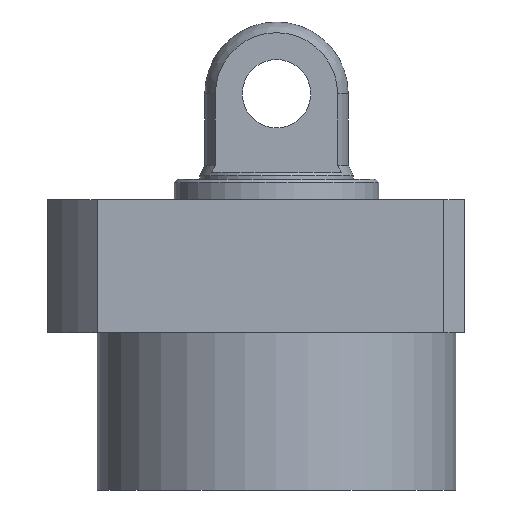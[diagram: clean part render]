
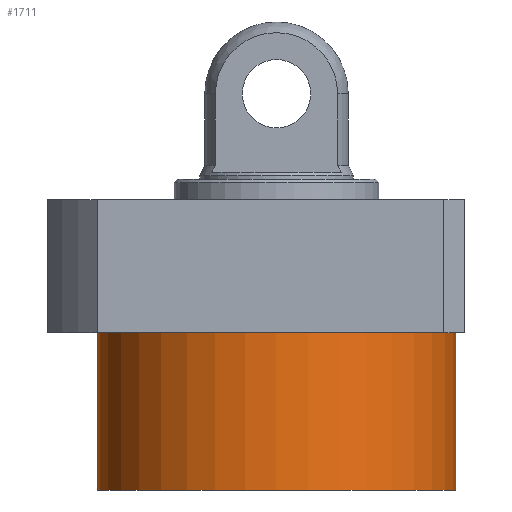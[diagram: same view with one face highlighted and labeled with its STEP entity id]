
A CAD part, front view. The second image highlights one B-rep face of the part: STEP entity #1711.
In plain terms, the highlighted cylindrical face has radius 52.5 mm (diameter 105 mm), a partial arc.
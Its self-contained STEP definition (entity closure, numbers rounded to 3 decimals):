
#115 = ORIENTED_EDGE ( 'NONE', *, *, #1165, .F. ) ;
#121 = FACE_OUTER_BOUND ( 'NONE', #1429, .T. ) ;
#256 = CARTESIAN_POINT ( 'NONE',  ( 52.5, 0., -19.5 ) ) ;
#286 = LINE ( 'NONE', #531, #523 ) ;
#312 = CYLINDRICAL_SURFACE ( 'NONE', #1428, 52.5 ) ;
#330 = CARTESIAN_POINT ( 'NONE',  ( 0., 0., -65.5 ) ) ;
#370 = CIRCLE ( 'NONE', #1454, 52.5 ) ;
#472 = DIRECTION ( 'NONE',  ( 1., 0., 0. ) ) ;
#523 = VECTOR ( 'NONE', #1557, 1000. ) ;
#531 = CARTESIAN_POINT ( 'NONE',  ( 52.5, 0., -65.5 ) ) ;
#540 = VECTOR ( 'NONE', #1033, 1000. ) ;
#605 = DIRECTION ( 'NONE',  ( 0., 0., 1. ) ) ;
#711 = CIRCLE ( 'NONE', #1250, 52.5 ) ;
#772 = CARTESIAN_POINT ( 'NONE',  ( -52.5, 0., -65.5 ) ) ;
#901 = LINE ( 'NONE', #772, #540 ) ;
#902 = VERTEX_POINT ( 'NONE', #1622 ) ;
#952 = EDGE_CURVE ( 'NONE', #1632, #1456, #286, .T. ) ;
#977 = DIRECTION ( 'NONE',  ( -1., 0., 0. ) ) ;
#1033 = DIRECTION ( 'NONE',  ( 0., 0., 1. ) ) ;
#1044 = ORIENTED_EDGE ( 'NONE', *, *, #952, .T. ) ;
#1116 = ORIENTED_EDGE ( 'NONE', *, *, #1273, .T. ) ;
#1165 = EDGE_CURVE ( 'NONE', #1677, #902, #901, .T. ) ;
#1187 = DIRECTION ( 'NONE',  ( 0., 0., -1. ) ) ;
#1250 = AXIS2_PLACEMENT_3D ( 'NONE', #1653, #1259, #977 ) ;
#1259 = DIRECTION ( 'NONE',  ( 0., 0., -1. ) ) ;
#1273 = EDGE_CURVE ( 'NONE', #1456, #902, #370, .T. ) ;
#1327 = DIRECTION ( 'NONE',  ( 1., 0., 0. ) ) ;
#1336 = CARTESIAN_POINT ( 'NONE',  ( 0., 0., -19.5 ) ) ;
#1428 = AXIS2_PLACEMENT_3D ( 'NONE', #330, #605, #472 ) ;
#1429 = EDGE_LOOP ( 'NONE', ( #115, #1697, #1044, #1116 ) ) ;
#1454 = AXIS2_PLACEMENT_3D ( 'NONE', #1336, #1187, #1327 ) ;
#1456 = VERTEX_POINT ( 'NONE', #256 ) ;
#1544 = CARTESIAN_POINT ( 'NONE',  ( -52.5, 0., -65.5 ) ) ;
#1557 = DIRECTION ( 'NONE',  ( 0., 0., 1. ) ) ;
#1567 = EDGE_CURVE ( 'NONE', #1632, #1677, #711, .T. ) ;
#1622 = CARTESIAN_POINT ( 'NONE',  ( -52.5, 0., -19.5 ) ) ;
#1632 = VERTEX_POINT ( 'NONE', #1665 ) ;
#1653 = CARTESIAN_POINT ( 'NONE',  ( 0., 0., -65.5 ) ) ;
#1665 = CARTESIAN_POINT ( 'NONE',  ( 52.5, 0., -65.5 ) ) ;
#1677 = VERTEX_POINT ( 'NONE', #1544 ) ;
#1697 = ORIENTED_EDGE ( 'NONE', *, *, #1567, .F. ) ;
#1711 = ADVANCED_FACE ( 'NONE', ( #121 ), #312, .T. ) ;
